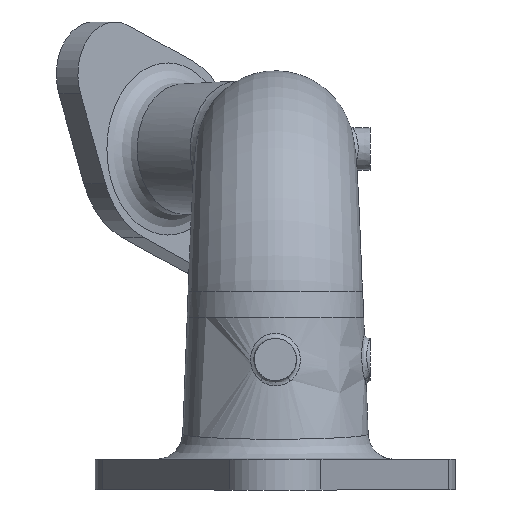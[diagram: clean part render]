
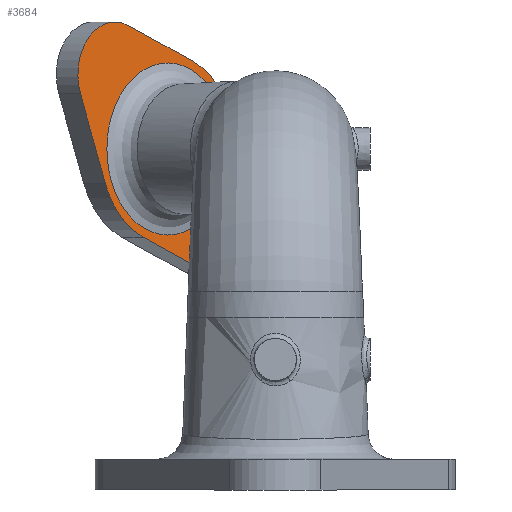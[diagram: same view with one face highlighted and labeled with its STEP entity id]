
A CAD part, left-side view. The second image highlights one B-rep face of the part: STEP entity #3684.
In plain terms, the highlighted planar face has unit normal (-0.707, -0.707, 0).
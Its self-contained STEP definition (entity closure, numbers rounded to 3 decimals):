
#1915=ORIENTED_EDGE('',*,*,#2287,.T.);
#1916=ORIENTED_EDGE('',*,*,#2278,.T.);
#1917=ORIENTED_EDGE('',*,*,#2281,.T.);
#1918=ORIENTED_EDGE('',*,*,#2282,.T.);
#1919=ORIENTED_EDGE('',*,*,#2262,.T.);
#1920=ORIENTED_EDGE('',*,*,#2266,.T.);
#1921=ORIENTED_EDGE('',*,*,#2269,.T.);
#1922=ORIENTED_EDGE('',*,*,#2270,.T.);
#1923=ORIENTED_EDGE('',*,*,#2275,.T.);
#2262=EDGE_CURVE('',#2474,#2473,#3937,.T.);
#2266=EDGE_CURVE('',#2473,#2476,#4983,.T.);
#2269=EDGE_CURVE('',#2476,#2478,#3939,.T.);
#2270=EDGE_CURVE('',#2478,#2479,#4985,.T.);
#2275=EDGE_CURVE('',#2479,#2482,#3941,.T.);
#2278=EDGE_CURVE('',#2482,#2484,#4991,.T.);
#2281=EDGE_CURVE('',#2484,#2486,#3943,.T.);
#2282=EDGE_CURVE('',#2486,#2474,#4993,.T.);
#2287=EDGE_CURVE('',#2489,#2489,#3836,.T.);
#2473=VERTEX_POINT('',#14487);
#2474=VERTEX_POINT('',#14489);
#2476=VERTEX_POINT('',#14520);
#2478=VERTEX_POINT('',#14551);
#2479=VERTEX_POINT('',#14580);
#2482=VERTEX_POINT('',#14611);
#2484=VERTEX_POINT('',#14642);
#2486=VERTEX_POINT('',#14673);
#2489=VERTEX_POINT('',#16187);
#2644=EDGE_LOOP('',(#1915));
#2645=EDGE_LOOP('',(#1916,#1917,#1918,#1919,#1920,#1921,#1922,#1923));
#2803=FACE_BOUND('',#2644,.T.);
#2804=FACE_BOUND('',#2645,.T.);
#2917=PLANE('',#5896);
#3684=ADVANCED_FACE('',(#2803,#2804),#2917,.T.);
#3836=B_SPLINE_CURVE_WITH_KNOTS('',3,(#16130,#16131,#16132,#16133,#16134,
#16135,#16136,#16137,#16138,#16139,#16140,#16141,#16142,#16143,#16144,#16145,
#16146,#16147,#16148,#16149,#16150,#16151,#16152,#16153,#16154,#16155,#16156,
#16157,#16158,#16159,#16160,#16161,#16162,#16163,#16164,#16165,#16166,#16167,
#16168,#16169,#16170,#16171,#16172,#16173,#16174,#16175,#16176,#16177,#16178,
#16179,#16180,#16181,#16182,#16183,#16184,#16185,#16186),.UNSPECIFIED.,
 .T.,.F.,(1,1,1,1,1,1,1,1,1,1,1,1,1,1,1,1,1,1,1,1,1,1,1,1,1,1,1,1,1,1,1,
1,1,1,1,1,1,1,1,1,1,1,1,1,1,1,1,1,1,1,1,1,1,1,1,1,1,1,1,1,1),(-0.026,
-0.02,-0.01,0.,0.01,0.015,
0.02,0.026,0.031,0.036,
0.041,0.046,0.051,0.061,
0.066,0.071,0.077,0.082,
0.087,0.092,0.097,0.102,
0.112,0.123,0.133,0.138,
0.143,0.148,0.153,0.163,
0.169,0.174,0.179,0.184,
0.194,0.199,0.204,0.209,
0.214,0.22,0.225,0.23,
0.235,0.24,0.245,0.25,
0.255,0.266,0.271,0.276,
0.281,0.286,0.291,0.296,
0.301,0.306,0.317,0.327,
0.337,0.342,0.347),.UNSPECIFIED.);
#3937=CIRCLE('',#5881,31.75);
#3939=CIRCLE('',#5885,57.15);
#3941=CIRCLE('',#5889,31.75);
#3943=CIRCLE('',#5893,57.15);
#4983=LINE('',#14521,#5109);
#4985=LINE('',#14579,#5111);
#4991=LINE('',#14643,#5117);
#4993=LINE('',#14701,#5119);
#5109=VECTOR('',#6300,1000.);
#5111=VECTOR('',#6310,1000.);
#5117=VECTOR('',#6324,1000.);
#5119=VECTOR('',#6334,1000.);
#5881=AXIS2_PLACEMENT_3D('',#14488,#6293,#6294);
#5885=AXIS2_PLACEMENT_3D('',#14552,#6306,#6307);
#5889=AXIS2_PLACEMENT_3D('',#14612,#6318,#6319);
#5893=AXIS2_PLACEMENT_3D('',#14674,#6330,#6331);
#5896=AXIS2_PLACEMENT_3D('',#16129,#6338,#6339);
#6293=DIRECTION('',(-0.707,-0.707,0.));
#6294=DIRECTION('',(0.707,-0.707,0.));
#6300=DIRECTION('',(0.258,-0.258,-0.931));
#6306=DIRECTION('',(-0.707,-0.707,0.));
#6307=DIRECTION('',(0.707,-0.707,0.));
#6310=DIRECTION('',(0.658,-0.658,-0.365));
#6318=DIRECTION('',(-0.707,-0.707,0.));
#6319=DIRECTION('',(0.707,-0.707,0.));
#6324=DIRECTION('',(-0.258,0.258,0.931));
#6330=DIRECTION('',(-0.707,-0.707,0.));
#6331=DIRECTION('',(0.707,-0.707,0.));
#6334=DIRECTION('',(-0.658,0.658,0.365));
#6338=DIRECTION('',(-0.707,-0.707,0.));
#6339=DIRECTION('',(0.707,-0.707,0.));
#14487=CARTESIAN_POINT('',(247.088,117.624,236.505));
#14488=CARTESIAN_POINT('',(267.988,96.725,248.101));
#14489=CARTESIAN_POINT('',(276.187,88.525,277.658));
#14520=CARTESIAN_POINT('',(262.118,102.594,182.327));
#14521=CARTESIAN_POINT('',(228.3,136.412,304.228));
#14551=CARTESIAN_POINT('',(284.978,79.734,149.998));
#14552=CARTESIAN_POINT('',(299.738,64.975,203.2));
#14579=CARTESIAN_POINT('',(268.56,96.152,159.108));
#14580=CARTESIAN_POINT('',(323.288,41.424,128.742));
#14611=CARTESIAN_POINT('',(352.387,12.325,169.895));
#14612=CARTESIAN_POINT('',(331.488,33.225,158.299));
#14642=CARTESIAN_POINT('',(337.357,27.355,224.073));
#14643=CARTESIAN_POINT('',(371.175,-6.463,102.172));
#14673=CARTESIAN_POINT('',(314.497,50.215,256.402));
#14674=CARTESIAN_POINT('',(299.738,64.975,203.2));
#14701=CARTESIAN_POINT('',(330.916,33.797,247.292));
#16129=CARTESIAN_POINT('',(182.356,182.356,0.));
#16130=CARTESIAN_POINT('',(335.948,28.765,213.485));
#16131=CARTESIAN_POINT('',(336.676,28.037,203.182));
#16132=CARTESIAN_POINT('',(336.079,28.633,194.686));
#16133=CARTESIAN_POINT('',(334.895,29.817,188.033));
#16134=CARTESIAN_POINT('',(333.681,31.032,183.259));
#16135=CARTESIAN_POINT('',(332.148,32.564,178.679));
#16136=CARTESIAN_POINT('',(330.277,34.436,174.27));
#16137=CARTESIAN_POINT('',(328.124,36.589,170.178));
#16138=CARTESIAN_POINT('',(325.717,38.996,166.428));
#16139=CARTESIAN_POINT('',(323.046,41.667,163.004));
#16140=CARTESIAN_POINT('',(319.147,45.565,158.925));
#16141=CARTESIAN_POINT('',(314.947,49.766,155.754));
#16142=CARTESIAN_POINT('',(310.376,54.337,153.441));
#16143=CARTESIAN_POINT('',(306.883,57.829,152.211));
#16144=CARTESIAN_POINT('',(303.34,61.372,151.469));
#16145=CARTESIAN_POINT('',(299.731,64.981,151.217));
#16146=CARTESIAN_POINT('',(296.105,68.607,151.473));
#16147=CARTESIAN_POINT('',(292.563,72.15,152.22));
#16148=CARTESIAN_POINT('',(289.08,75.633,153.45));
#16149=CARTESIAN_POINT('',(284.507,80.206,155.768));
#16150=CARTESIAN_POINT('',(279.246,85.466,159.744));
#16151=CARTESIAN_POINT('',(273.599,91.113,166.298));
#16152=CARTESIAN_POINT('',(269.815,94.898,172.819));
#16153=CARTESIAN_POINT('',(267.315,97.397,178.71));
#16154=CARTESIAN_POINT('',(265.783,98.929,183.299));
#16155=CARTESIAN_POINT('',(264.573,100.139,188.069));
#16156=CARTESIAN_POINT('',(263.394,101.319,194.705));
#16157=CARTESIAN_POINT('',(262.92,101.792,201.535));
#16158=CARTESIAN_POINT('',(263.163,101.55,208.354));
#16159=CARTESIAN_POINT('',(263.692,101.02,213.364));
#16160=CARTESIAN_POINT('',(264.564,100.148,218.295));
#16161=CARTESIAN_POINT('',(266.205,98.507,224.761));
#16162=CARTESIAN_POINT('',(268.454,96.258,230.7));
#16163=CARTESIAN_POINT('',(271.338,93.375,236.2));
#16164=CARTESIAN_POINT('',(273.766,90.946,239.982));
#16165=CARTESIAN_POINT('',(276.421,88.292,243.381));
#16166=CARTESIAN_POINT('',(279.312,85.401,246.417));
#16167=CARTESIAN_POINT('',(282.435,82.278,249.061));
#16168=CARTESIAN_POINT('',(285.677,79.035,251.225));
#16169=CARTESIAN_POINT('',(289.051,75.661,252.936));
#16170=CARTESIAN_POINT('',(292.58,72.132,254.187));
#16171=CARTESIAN_POINT('',(296.145,68.567,254.931));
#16172=CARTESIAN_POINT('',(299.722,64.99,255.18));
#16173=CARTESIAN_POINT('',(303.326,61.386,254.934));
#16174=CARTESIAN_POINT('',(308.119,56.593,253.926));
#16175=CARTESIAN_POINT('',(312.677,52.035,251.973));
#16176=CARTESIAN_POINT('',(317.069,47.644,249.042));
#16177=CARTESIAN_POINT('',(320.153,44.56,246.424));
#16178=CARTESIAN_POINT('',(323.031,41.682,243.41));
#16179=CARTESIAN_POINT('',(325.714,38.999,239.979));
#16180=CARTESIAN_POINT('',(328.149,36.563,236.179));
#16181=CARTESIAN_POINT('',(330.283,34.429,232.11));
#16182=CARTESIAN_POINT('',(332.134,32.578,227.758));
#16183=CARTESIAN_POINT('',(334.213,30.499,221.548));
#16184=CARTESIAN_POINT('',(335.948,28.765,213.485));
#16185=CARTESIAN_POINT('',(336.676,28.037,203.182));
#16186=CARTESIAN_POINT('',(336.079,28.633,194.686));
#16187=CARTESIAN_POINT('',(336.435,28.277,203.2));
